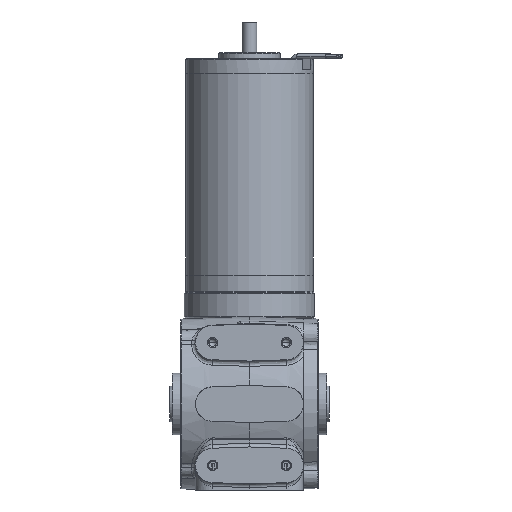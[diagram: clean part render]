
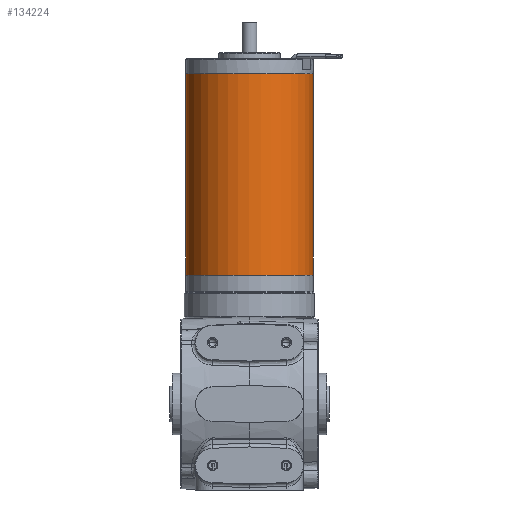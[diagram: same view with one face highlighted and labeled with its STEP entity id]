
A CAD part, front view. The second image highlights one B-rep face of the part: STEP entity #134224.
In plain terms, the highlighted cylindrical face has radius 26 mm (diameter 52 mm), a partial arc.
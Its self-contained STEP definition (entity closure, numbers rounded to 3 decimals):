
#11713 = ORIENTED_EDGE ( 'NONE', *, *, #97988, .F. ) ;
#13048 = LINE ( 'NONE', #47700, #69053 ) ;
#13975 = CARTESIAN_POINT ( 'NONE',  ( -24.438, 24.785, 46.971 ) ) ;
#16469 = FACE_OUTER_BOUND ( 'NONE', #163018, .T. ) ;
#21438 = CARTESIAN_POINT ( 'NONE',  ( 1.562, 24.785, 128.971 ) ) ;
#23774 = CARTESIAN_POINT ( 'NONE',  ( -24.438, 24.785, 128.971 ) ) ;
#26797 = EDGE_CURVE ( 'NONE', #91229, #145127, #152543, .T. ) ;
#33383 = VERTEX_POINT ( 'NONE', #13975 ) ;
#33409 = EDGE_CURVE ( 'NONE', #91229, #108989, #64539, .T. ) ;
#44545 = AXIS2_PLACEMENT_3D ( 'NONE', #56556, #108028, #97009 ) ;
#46798 = DIRECTION ( 'NONE',  ( 1., 0., 0. ) ) ;
#47700 = CARTESIAN_POINT ( 'NONE',  ( -24.438, 24.785, 128.971 ) ) ;
#48472 = DIRECTION ( 'NONE',  ( 0., 0., -1. ) ) ;
#50098 = AXIS2_PLACEMENT_3D ( 'NONE', #147387, #109306, #83933 ) ;
#56556 = CARTESIAN_POINT ( 'NONE',  ( 1.562, 24.785, 46.971 ) ) ;
#57964 = CIRCLE ( 'NONE', #44545, 26. ) ;
#63315 = ORIENTED_EDGE ( 'NONE', *, *, #112530, .T. ) ;
#64539 = LINE ( 'NONE', #116055, #149590 ) ;
#65333 = DIRECTION ( 'NONE',  ( 0., 0., -1. ) ) ;
#69053 = VECTOR ( 'NONE', #99079, 1000. ) ;
#79696 = CYLINDRICAL_SURFACE ( 'NONE', #161678, 26. ) ;
#83933 = DIRECTION ( 'NONE',  ( 1., 0., 0. ) ) ;
#85271 = CARTESIAN_POINT ( 'NONE',  ( 27.562, 24.785, 46.971 ) ) ;
#87225 = CARTESIAN_POINT ( 'NONE',  ( 27.562, 24.785, 128.971 ) ) ;
#88359 = ORIENTED_EDGE ( 'NONE', *, *, #26797, .T. ) ;
#91229 = VERTEX_POINT ( 'NONE', #87225 ) ;
#97009 = DIRECTION ( 'NONE',  ( 1., 0., 0. ) ) ;
#97988 = EDGE_CURVE ( 'NONE', #108989, #33383, #57964, .T. ) ;
#99079 = DIRECTION ( 'NONE',  ( 0., 0., -1. ) ) ;
#108028 = DIRECTION ( 'NONE',  ( 0., 0., -1. ) ) ;
#108989 = VERTEX_POINT ( 'NONE', #85271 ) ;
#109306 = DIRECTION ( 'NONE',  ( 0., 0., -1. ) ) ;
#112530 = EDGE_CURVE ( 'NONE', #145127, #33383, #13048, .T. ) ;
#116055 = CARTESIAN_POINT ( 'NONE',  ( 27.562, 24.785, 128.971 ) ) ;
#134224 = ADVANCED_FACE ( 'NONE', ( #16469 ), #79696, .T. ) ;
#145127 = VERTEX_POINT ( 'NONE', #23774 ) ;
#147387 = CARTESIAN_POINT ( 'NONE',  ( 1.562, 24.785, 128.971 ) ) ;
#149590 = VECTOR ( 'NONE', #65333, 1000. ) ;
#152543 = CIRCLE ( 'NONE', #50098, 26. ) ;
#161678 = AXIS2_PLACEMENT_3D ( 'NONE', #21438, #48472, #46798 ) ;
#161956 = ORIENTED_EDGE ( 'NONE', *, *, #33409, .F. ) ;
#163018 = EDGE_LOOP ( 'NONE', ( #88359, #63315, #11713, #161956 ) ) ;
